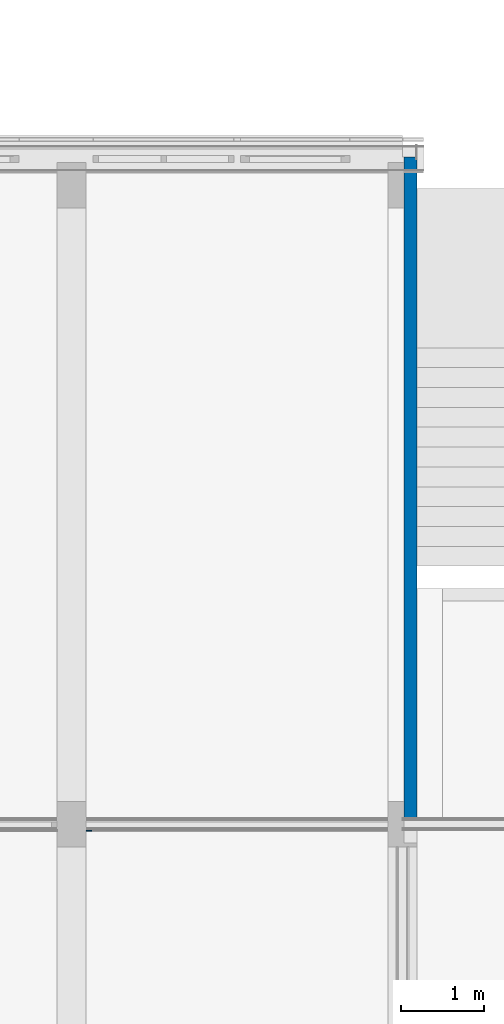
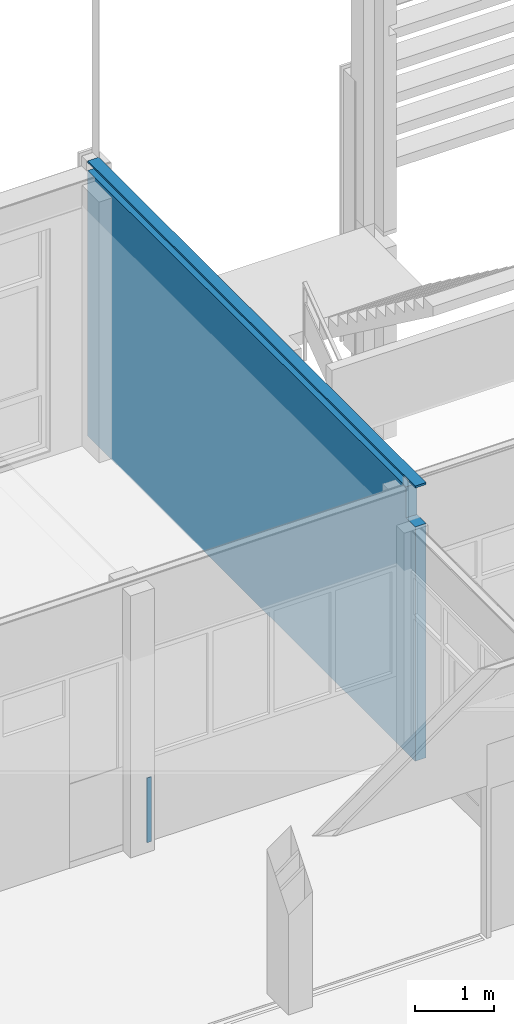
# One storey, part 27 of 94: 3 walls.
"""IFC2X3 building model written with IfcOpenShell, lengths in millimetres."""

from ifc_helpers import new_model, entity, si_unit, converted_unit, derived_unit, money_unit, direction, frame, origin_with_axes, place, context, subcontext, project, spatial, faceted_brep, material, type_object, element, save


model = new_model("IFC2X3")

# Units and contexts
model_context = context("Model", 3, precision=0.01, world=origin_with_axes(), true_north=direction((0.0, 1.0)))
body_context = subcontext(model_context, "Body", "Model", "MODEL_VIEW")
ifc_project = project(units=[si_unit("LENGTHUNIT", "METRE", prefix="MILLI"), si_unit("AREAUNIT", "SQUARE_METRE"), si_unit("VOLUMEUNIT", "CUBIC_METRE"), converted_unit("PLANEANGLEUNIT", "DEGREE", entity("IfcPlaneAngleMeasure", 0.0174532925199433), si_unit("PLANEANGLEUNIT", "RADIAN"), dimensions=[0, 0, 0, 0, 0, 0, 0]), money_unit("EUR"), converted_unit("TIMEUNIT", "Year", entity("IfcTimeMeasure", 31557600.0), si_unit("TIMEUNIT", "SECOND"), dimensions=[0, 0, 1, 0, 0, 0, 0]), si_unit("MASSUNIT", "GRAM", prefix="KILO"), si_unit("THERMODYNAMICTEMPERATUREUNIT", "DEGREE_CELSIUS"), si_unit("LUMINOUSINTENSITYUNIT", "LUMEN"), si_unit("ENERGYUNIT", "JOULE", prefix="MEGA"), derived_unit("THERMALCONDUCTANCEUNIT", [(si_unit("POWERUNIT", "WATT"), 1), (si_unit("LENGTHUNIT", "METRE"), -1), (si_unit("THERMODYNAMICTEMPERATUREUNIT", "KELVIN"), -1)]), derived_unit("SPECIFICHEATCAPACITYUNIT", [(si_unit("ENERGYUNIT", "JOULE"), 1), (si_unit("MASSUNIT", "GRAM", prefix="KILO"), -1), (si_unit("THERMODYNAMICTEMPERATUREUNIT", "KELVIN"), -1)]), derived_unit("MASSDENSITYUNIT", [(si_unit("MASSUNIT", "GRAM", prefix="KILO"), 1), (si_unit("VOLUMEUNIT", "CUBIC_METRE"), -1)])], contexts=[model_context])

# Site, building, storey
site_placement = place(None, origin_with_axes())
site = spatial("IfcSite", under=ifc_project, at=site_placement, Name="<site naam>", CompositionType="ELEMENT")
building_placement = place(site_placement, origin_with_axes())
building = spatial("IfcBuilding", under=site, at=building_placement, Name="<Naam gebouw>", CompositionType="ELEMENT")
storey_placement = place(building_placement, frame((0.0, 0.0, 4250.0), z_axis=(0.0, 0.0, 1.0), x_axis=(1.0, 0.0, 0.0)))
storey = spatial("IfcBuildingStorey", under=building, at=storey_placement, Name="01 1e verdieping", CompositionType="ELEMENT", Elevation=4250.0)

# Walls
ifc_material_1 = material(Name="beton_gewapend C")
wall_type_1 = type_object("IfcWallType", Name="beton 160 160", PredefinedType="NOTDEFINED")
wall_placement = place(storey_placement, frame((48174.99999989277, 20065.00000000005, 0.0), z_axis=(0.0, 0.0, 1.0), x_axis=(0.0, -1.0, 0.0)))
element("IfcWall", 1, at=wall_placement, inside=storey, type_object=wall_type_1, material=ifc_material_1, Name="22_Binnenwand_beton", context=body_context, shape_type="Brep", body=[
    faceted_brep([(0.0, -159.9999999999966, 4100.000000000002), (8059.45385009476, -160.0000000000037, 4100.000000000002), (8059.45385009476, 1.072635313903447e-07, 4100.000000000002), (0.0, 0.0, 4100.000000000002), (8289.99999999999, -160.0000000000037, 3619.999999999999), (8059.45385009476, -160.0000000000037, 3619.999999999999), (0.0, -159.9999999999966, 0.0), (8289.99999999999, -160.0000000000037, 0.0), (8059.45385009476, 1.072635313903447e-07, 3619.999999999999), (8289.99999999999, 1.072635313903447e-07, 3619.999999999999), (8289.99999999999, 0.0, 0.0), (0.0, 0.0, 0.0)], [[[0, 1, 2, 3]], [[4, 5, 1, 0, 6, 7]], [[5, 8, 2, 1]], [[2, 8, 9, 10, 11, 3]], [[11, 6, 0, 3]], [[4, 9, 8, 5]], [[7, 6, 11, 10]], [[10, 9, 4, 7]]]),
    faceted_brep([(0.0, 0.0, 4250.0), (8289.99999999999, 0.0, 4250.0), (8289.99999999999, 0.0, 4220.000000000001), (0.0, 0.0, 4220.000000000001), (0.0, -159.9999999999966, 4250.0), (8289.99999999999, -160.0000000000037, 4250.0), (8289.99999999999, -160.0000000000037, 4220.000000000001), (0.0, -159.9999999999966, 4220.000000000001)], [[[0, 1, 2, 3]], [[1, 0, 4, 5]], [[1, 5, 6, 2]], [[2, 6, 7, 3]], [[4, 0, 3, 7]], [[5, 4, 7, 6]]]),
])
ifc_material_2 = material(Name="ALG - BUITENAFWERKING")
wall_type_2 = type_object("IfcWallType", Name="ALG - BUITENAFWERKING 10", PredefinedType="NOTDEFINED")
for number, where, z_axis, x_axis, name in (
    (2, (44175.00010281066, 11925.00000000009, 0.0), (0.0, 0.0, 1.0), (1.0, 0.0, 0.0), "42_Binnenwand_ALG"),
    (3, (44175.00010281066, 11925.00000000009, 0.0), (0.0, 0.0, 1.0), (1.0, 0.0, 0.0), "42_Binnenwand_ALG"),
):
    element("IfcWall", number, at=place(storey_placement, frame(where, z_axis=z_axis, x_axis=x_axis)), inside=storey, type_object=wall_type_2, material=ifc_material_2, Name=name, context=body_context, shape_type="Brep", body=[
        faceted_brep([(0.0, -9.999999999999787, 0.0), (0.0, 0.0, 0.0), (67.00000000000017, 0.0, 0.0), (67.00000000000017, -9.999999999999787, 0.0), (0.0, -9.999999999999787, 998.9999999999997), (0.0, 0.0, 998.9999999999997), (67.00000000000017, 0.0, 998.9999999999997), (67.00000000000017, -9.999999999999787, 998.9999999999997)], [[[0, 1, 2, 3]], [[4, 5, 1, 0]], [[1, 5, 6, 2]], [[7, 3, 2, 6]], [[4, 0, 3, 7]], [[5, 4, 7, 6]]]),
    ])

save(model, "model.ifc")
